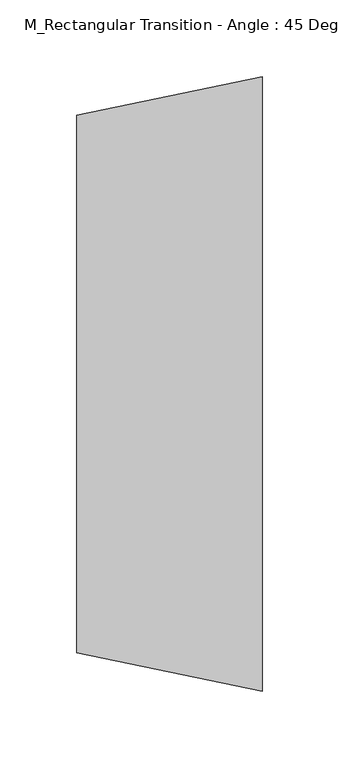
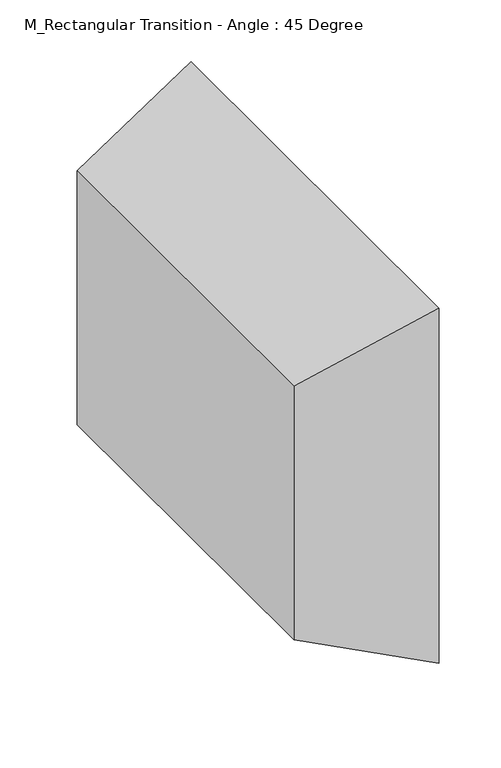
"""IFC4 building model written with IfcOpenShell, lengths in millimetres: duct fitting geometry, M_Rectangular Transition - Angle : 45 Degree."""

from ifc_helpers import new_model, si_unit, origin, place, context, project, spatial, faceted_brep, source, transform, mapped, element, save


def m_rectangular_transition_angle_45_degree_a249a7b9(model_context):
    return source(origin(), model_context, "Body", "Brep", [
        faceted_brep([(120.7106781, -200.0, 175.0), (120.7106781, -200.0, -175.0), (120.7106781, 200.0, -175.0), (120.7106781, 200.0, 175.0), (0.0, -175.0, 125.0), (0.0, 175.0, 125.0), (0.0, 175.0, -125.0), (0.0, -175.0, -125.0)], [[[0, 1, 2, 3]], [[4, 5, 6, 7]], [[4, 7, 1, 0]], [[7, 6, 2, 1]], [[6, 5, 3, 2]], [[5, 4, 0, 3]]]),
        faceted_brep([(120.7106781, -200.0, 175.0), (120.7106781, -200.0, -175.0), (120.7106781, 200.0, -175.0), (120.7106781, 200.0, 175.0), (0.0, -175.0, 125.0), (0.0, 175.0, 125.0), (0.0, 175.0, -125.0), (0.0, -175.0, -125.0)], [[[0, 1, 2, 3]], [[4, 5, 6, 7]], [[4, 7, 1, 0]], [[7, 6, 2, 1]], [[6, 5, 3, 2]], [[5, 4, 0, 3]]]),
        faceted_brep([(120.7106781, -200.0, 175.0), (120.7106781, -200.0, -175.0), (120.7106781, 200.0, -175.0), (120.7106781, 200.0, 175.0), (0.0, -175.0, 125.0), (0.0, 175.0, 125.0), (0.0, 175.0, -125.0), (0.0, -175.0, -125.0)], [[[0, 1, 2, 3]], [[4, 5, 6, 7]], [[4, 7, 1, 0]], [[7, 6, 2, 1]], [[6, 5, 3, 2]], [[5, 4, 0, 3]]]),
    ])


if __name__ == "__main__":
    model = new_model("IFC4")
    model_context = context("Model", 3, world=origin())
    ifc_project = project(units=[si_unit("LENGTHUNIT", "METRE", prefix="MILLI")], contexts=[model_context])
    site = spatial("IfcSite", under=ifc_project)
    building = spatial("IfcBuilding", under=site)
    placement = place(None, origin())
    m_rectangular_transition_angle_45_degree_shape = m_rectangular_transition_angle_45_degree_a249a7b9(model_context)
    element("IfcDuctFitting", 1, ObjectType="M_Rectangular Transition - Angle : 45 Degree", at=placement, inside=building, context=model_context, shape_type="MappedRepresentation", body=[
        mapped(m_rectangular_transition_angle_45_degree_shape, transform((0.0, 0.0, 0.0), x_axis=(1.0, 0.0, 0.0), y_axis=(0.0, 1.0, 0.0), z_axis=(0.0, 0.0, 1.0))),
    ])
    save(model, "model.ifc")
